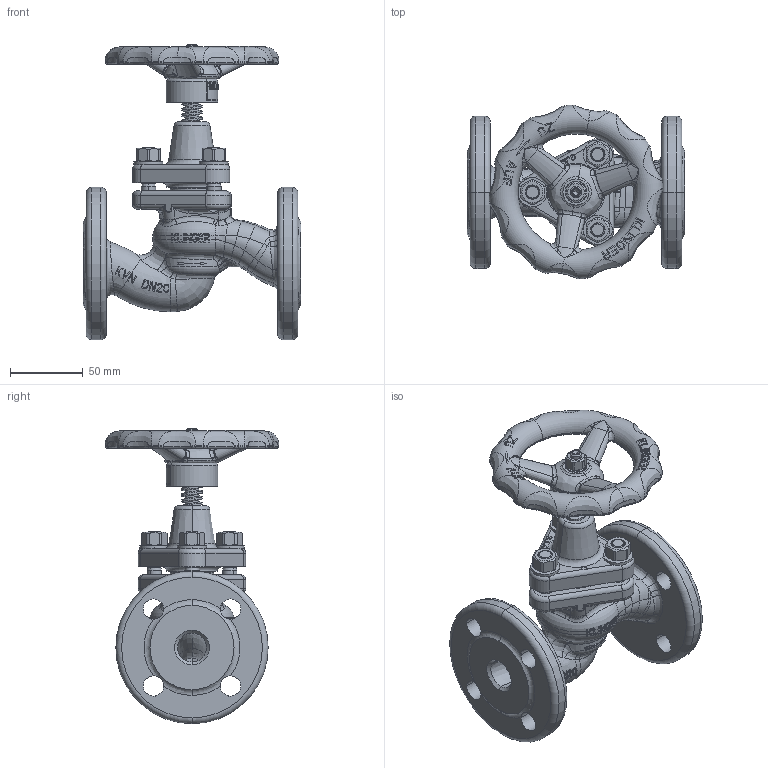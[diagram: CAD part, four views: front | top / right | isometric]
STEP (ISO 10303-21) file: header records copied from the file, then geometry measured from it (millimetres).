
FILE_DESCRIPTION((''),'2;1');
FILE_NAME('KVNFL020S-----P016DGG_SW0001','2014-09-22T',('schwaba'),('RAND'),'PRO/ENGINEER BY PARAMETRIC TECHNOLOGY CORPORATION, 2013410','PRO/ENGINEER BY PARAMETRIC TECHNOLOGY CORPORATION, 2013410','');
FILE_SCHEMA(('CONFIG_CONTROL_DESIGN'));
Products named in the file (1): KVNFL020S-----P016DGG_SW0001
Bounding box: 150 x 119.87 x 203.6 mm (x, y, z)
Volume: 524473.6 mm3; surface area: 143912 mm2
Topology: 3 solids, 10 shells, 2659 faces, 7139 edges, 4531 vertices
Faces by surface type: plane 1439, bspline 547, cylinder 356, torus 203, cone 108, extrusion 6
Entity records: 152358 total; most frequent: CARTESIAN_POINT 92215, ORIENTED_EDGE 14250, DIRECTION 9938, EDGE_CURVE 7125, VERTEX_POINT 4531, AXIS2_PLACEMENT_3D 3503, VECTOR 2932, LINE 2926
